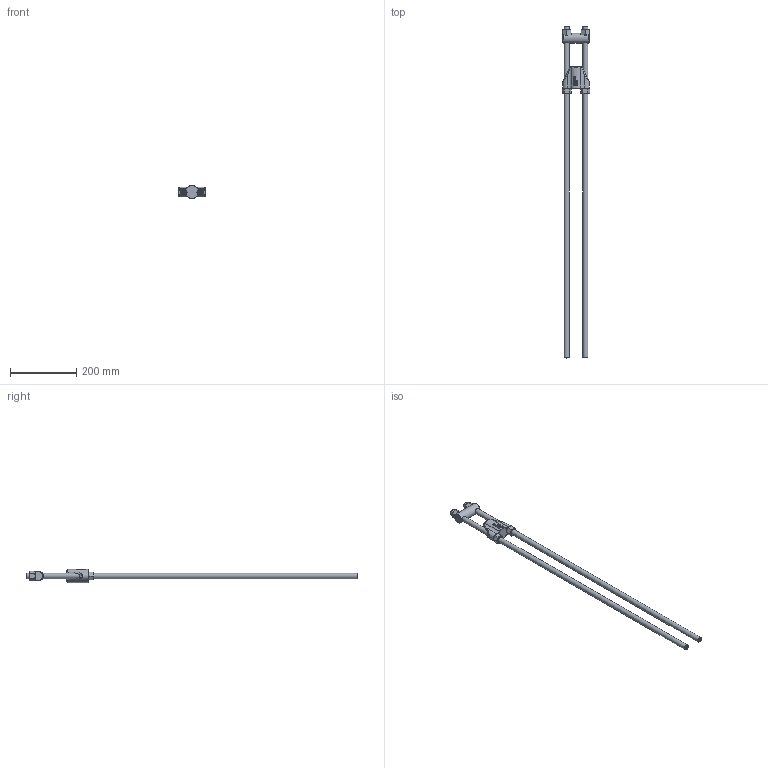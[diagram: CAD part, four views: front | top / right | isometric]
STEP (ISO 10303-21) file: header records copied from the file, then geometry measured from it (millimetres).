
FILE_DESCRIPTION(/* description */ (''),/* implementation_level */ '2;1');
FILE_NAME(/* name */ 'D:\Clienti\Redaelli (inventor)\BRC\STEP\Arrangemet\BRC012 72 111 0.stp',/* time_stamp */ '2021-05-08T08:08:28+02:00',/* author */ ('fabri'),/* organization */ (''),/* preprocessor_version */ 'ST-DEVELOPER v16.13',/* originating_system */ 'Autodesk Inventor 2018',/* authorisation */ '');
FILE_SCHEMA (('AUTOMOTIVE_DESIGN { 1 0 10303 214 3 1 1 }'));
Length unit declared in the file: millimetre
Products named in the file (5): BRC012-71-111-0; BRC012-71-112-0; BRC012-71-114-0_ROD; BRC012-71-113-0; UNI 5587 - M16
Assembly tree (8 placements, depth 2):
  BRC012-71-111-0
    BRC012-71-112-0
    BRC012-71-114-0_ROD  x2
    BRC012-71-113-0
    UNI 5587 - M16  x4
Bounding box: 83.71 x 1000 x 39.93 mm (x, y, z)
Volume: 565136.2 mm3; surface area: 139650.3 mm2
Topology: 8 solids, 8 shells, 1500 faces, 3988 edges, 2628 vertices
Faces by surface type: plane 768, bspline 599, cone 62, cylinder 47, torus 20, sphere 4
Full cylindrical faces by diameter (mm): 13.835 x4, 16 x2, 17 x4, 30 x1
Entity records: 29220 total; most frequent: CARTESIAN_POINT 10878, ORIENTED_EDGE 4326, DIRECTION 2691, EDGE_CURVE 2163, VERTEX_POINT 1432, LINE 1231, VECTOR 1231, EDGE_LOOP 905
